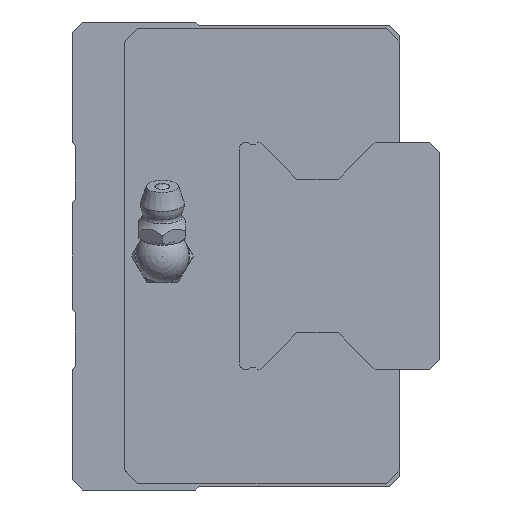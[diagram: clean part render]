
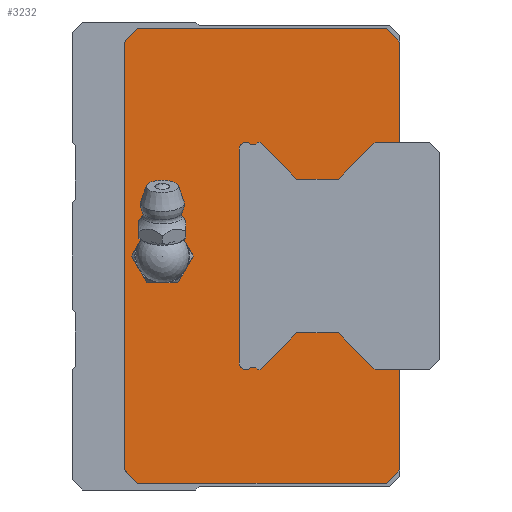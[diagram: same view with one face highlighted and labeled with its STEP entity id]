
A CAD part, left-side view. The second image highlights one B-rep face of the part: STEP entity #3232.
In plain terms, the highlighted planar face has unit normal (-1, 0, 0).
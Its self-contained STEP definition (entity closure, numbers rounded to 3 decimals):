
#183=CIRCLE('',#3509,3.);
#184=CIRCLE('',#3510,1.);
#185=CIRCLE('',#3511,1.);
#563=ORIENTED_EDGE('',*,*,#1301,.T.);
#564=ORIENTED_EDGE('',*,*,#1302,.T.);
#565=ORIENTED_EDGE('',*,*,#1294,.F.);
#566=ORIENTED_EDGE('',*,*,#1264,.F.);
#567=ORIENTED_EDGE('',*,*,#1260,.F.);
#568=ORIENTED_EDGE('',*,*,#1252,.F.);
#569=ORIENTED_EDGE('',*,*,#1285,.F.);
#570=ORIENTED_EDGE('',*,*,#1237,.F.);
#571=ORIENTED_EDGE('',*,*,#1275,.F.);
#572=ORIENTED_EDGE('',*,*,#1272,.F.);
#573=ORIENTED_EDGE('',*,*,#1296,.F.);
#574=ORIENTED_EDGE('',*,*,#1303,.T.);
#575=ORIENTED_EDGE('',*,*,#1304,.T.);
#576=ORIENTED_EDGE('',*,*,#1305,.T.);
#577=ORIENTED_EDGE('',*,*,#1306,.T.);
#578=ORIENTED_EDGE('',*,*,#1307,.T.);
#579=ORIENTED_EDGE('',*,*,#1308,.T.);
#580=ORIENTED_EDGE('',*,*,#1309,.T.);
#581=ORIENTED_EDGE('',*,*,#1310,.T.);
#582=ORIENTED_EDGE('',*,*,#1311,.T.);
#583=ORIENTED_EDGE('',*,*,#1312,.T.);
#584=ORIENTED_EDGE('',*,*,#1313,.T.);
#585=ORIENTED_EDGE('',*,*,#1314,.T.);
#586=ORIENTED_EDGE('',*,*,#1315,.T.);
#587=ORIENTED_EDGE('',*,*,#1316,.T.);
#588=ORIENTED_EDGE('',*,*,#1317,.T.);
#589=ORIENTED_EDGE('',*,*,#1318,.T.);
#1237=EDGE_CURVE('',#1636,#1637,#1951,.T.);
#1252=EDGE_CURVE('',#1651,#1652,#1966,.T.);
#1260=EDGE_CURVE('',#1652,#1658,#1973,.T.);
#1264=EDGE_CURVE('',#1658,#1660,#1977,.T.);
#1272=EDGE_CURVE('',#1667,#1668,#1985,.T.);
#1275=EDGE_CURVE('',#1668,#1636,#1988,.T.);
#1285=EDGE_CURVE('',#1637,#1651,#1996,.T.);
#1294=EDGE_CURVE('',#1660,#1673,#2004,.T.);
#1296=EDGE_CURVE('',#1676,#1667,#2006,.T.);
#1301=EDGE_CURVE('',#1680,#1680,#183,.T.);
#1302=EDGE_CURVE('',#1681,#1673,#2011,.T.);
#1303=EDGE_CURVE('',#1676,#1682,#2012,.T.);
#1304=EDGE_CURVE('',#1682,#1683,#2013,.T.);
#1305=EDGE_CURVE('',#1683,#1684,#2014,.T.);
#1306=EDGE_CURVE('',#1684,#1685,#2015,.T.);
#1307=EDGE_CURVE('',#1685,#1686,#2016,.T.);
#1308=EDGE_CURVE('',#1686,#1687,#2017,.T.);
#1309=EDGE_CURVE('',#1687,#1688,#2018,.T.);
#1310=EDGE_CURVE('',#1688,#1689,#184,.T.);
#1311=EDGE_CURVE('',#1689,#1690,#2019,.T.);
#1312=EDGE_CURVE('',#1690,#1691,#185,.T.);
#1313=EDGE_CURVE('',#1691,#1692,#2020,.T.);
#1314=EDGE_CURVE('',#1692,#1693,#2021,.T.);
#1315=EDGE_CURVE('',#1693,#1694,#2022,.T.);
#1316=EDGE_CURVE('',#1694,#1695,#2023,.T.);
#1317=EDGE_CURVE('',#1695,#1696,#2024,.T.);
#1318=EDGE_CURVE('',#1696,#1681,#2025,.T.);
#1636=VERTEX_POINT('',#4922);
#1637=VERTEX_POINT('',#4924);
#1651=VERTEX_POINT('',#4953);
#1652=VERTEX_POINT('',#4955);
#1658=VERTEX_POINT('',#4971);
#1660=VERTEX_POINT('',#4978);
#1667=VERTEX_POINT('',#4993);
#1668=VERTEX_POINT('',#4995);
#1673=VERTEX_POINT('',#5024);
#1676=VERTEX_POINT('',#5034);
#1680=VERTEX_POINT('',#5045);
#1681=VERTEX_POINT('',#5047);
#1682=VERTEX_POINT('',#5049);
#1683=VERTEX_POINT('',#5051);
#1684=VERTEX_POINT('',#5053);
#1685=VERTEX_POINT('',#5055);
#1686=VERTEX_POINT('',#5057);
#1687=VERTEX_POINT('',#5059);
#1688=VERTEX_POINT('',#5061);
#1689=VERTEX_POINT('',#5063);
#1690=VERTEX_POINT('',#5065);
#1691=VERTEX_POINT('',#5067);
#1692=VERTEX_POINT('',#5069);
#1693=VERTEX_POINT('',#5071);
#1694=VERTEX_POINT('',#5073);
#1695=VERTEX_POINT('',#5075);
#1696=VERTEX_POINT('',#5077);
#1951=LINE('',#4923,#2249);
#1966=LINE('',#4954,#2264);
#1973=LINE('',#4970,#2271);
#1977=LINE('',#4977,#2275);
#1985=LINE('',#4994,#2283);
#1988=LINE('',#4999,#2286);
#1996=LINE('',#5015,#2294);
#2004=LINE('',#5031,#2302);
#2006=LINE('',#5036,#2304);
#2011=LINE('',#5046,#2309);
#2012=LINE('',#5048,#2310);
#2013=LINE('',#5050,#2311);
#2014=LINE('',#5052,#2312);
#2015=LINE('',#5054,#2313);
#2016=LINE('',#5056,#2314);
#2017=LINE('',#5058,#2315);
#2018=LINE('',#5060,#2316);
#2019=LINE('',#5064,#2317);
#2020=LINE('',#5068,#2318);
#2021=LINE('',#5070,#2319);
#2022=LINE('',#5072,#2320);
#2023=LINE('',#5074,#2321);
#2024=LINE('',#5076,#2322);
#2025=LINE('',#5078,#2323);
#2249=VECTOR('',#3988,1000.);
#2264=VECTOR('',#4005,1000.);
#2271=VECTOR('',#4018,1000.);
#2275=VECTOR('',#4024,1000.);
#2283=VECTOR('',#4034,1000.);
#2286=VECTOR('',#4039,1000.);
#2294=VECTOR('',#4059,1000.);
#2302=VECTOR('',#4073,1000.);
#2304=VECTOR('',#4077,1000.);
#2309=VECTOR('',#4086,1000.);
#2310=VECTOR('',#4087,1000.);
#2311=VECTOR('',#4088,1000.);
#2312=VECTOR('',#4089,1000.);
#2313=VECTOR('',#4090,1000.);
#2314=VECTOR('',#4091,1000.);
#2315=VECTOR('',#4092,1000.);
#2316=VECTOR('',#4093,1000.);
#2317=VECTOR('',#4096,1000.);
#2318=VECTOR('',#4099,1000.);
#2319=VECTOR('',#4100,1000.);
#2320=VECTOR('',#4101,1000.);
#2321=VECTOR('',#4102,1000.);
#2322=VECTOR('',#4103,1000.);
#2323=VECTOR('',#4104,1000.);
#2553=EDGE_LOOP('',(#563));
#2554=EDGE_LOOP('',(#564,#565,#566,#567,#568,#569,#570,#571,#572,#573,#574,
#575,#576,#577,#578,#579,#580,#581,#582,#583,#584,#585,#586,#587,#588,#589));
#2844=FACE_BOUND('',#2553,.T.);
#2845=FACE_BOUND('',#2554,.T.);
#3089=PLANE('',#3508);
#3232=ADVANCED_FACE('',(#2844,#2845),#3089,.F.);
#3508=AXIS2_PLACEMENT_3D('',#5043,#4082,#4083);
#3509=AXIS2_PLACEMENT_3D('',#5044,#4084,#4085);
#3510=AXIS2_PLACEMENT_3D('',#5062,#4094,#4095);
#3511=AXIS2_PLACEMENT_3D('',#5066,#4097,#4098);
#3988=DIRECTION('',(0.,0.707,0.707));
#4005=DIRECTION('',(0.,-0.707,0.707));
#4018=DIRECTION('',(0.,-1.,0.));
#4024=DIRECTION('',(0.,-0.707,-0.707));
#4034=DIRECTION('',(0.,0.707,-0.707));
#4039=DIRECTION('',(0.,1.,0.));
#4059=DIRECTION('',(0.,0.,1.));
#4073=DIRECTION('',(0.,0.,-1.));
#4077=DIRECTION('',(0.,0.,-1.));
#4082=DIRECTION('',(1.,0.,0.));
#4083=DIRECTION('',(0.,0.,-1.));
#4084=DIRECTION('',(1.,0.,0.));
#4085=DIRECTION('',(0.,0.,-1.));
#4086=DIRECTION('',(0.,-1.,0.));
#4087=DIRECTION('',(0.,1.,0.));
#4088=DIRECTION('',(0.,0.707,0.707));
#4089=DIRECTION('',(0.,1.,0.));
#4090=DIRECTION('',(0.,0.707,-0.707));
#4091=DIRECTION('',(0.,1.,0.));
#4092=DIRECTION('',(0.,0.707,0.707));
#4093=DIRECTION('',(0.,1.,0.));
#4094=DIRECTION('',(1.,0.,0.));
#4095=DIRECTION('',(0.,0.,-1.));
#4096=DIRECTION('',(0.,0.,1.));
#4097=DIRECTION('',(1.,0.,0.));
#4098=DIRECTION('',(0.,0.,-1.));
#4099=DIRECTION('',(0.,-1.,0.));
#4100=DIRECTION('',(0.,-0.707,0.707));
#4101=DIRECTION('',(0.,-1.,0.));
#4102=DIRECTION('',(0.,-0.707,-0.707));
#4103=DIRECTION('',(0.,-1.,0.));
#4104=DIRECTION('',(0.,-0.707,0.707));
#4922=CARTESIAN_POINT('',(-90.4,39.2,-34.));
#4923=CARTESIAN_POINT('',(-90.4,39.2,-34.));
#4924=CARTESIAN_POINT('',(-90.4,41.2,-32.));
#4953=CARTESIAN_POINT('',(-90.4,41.2,32.));
#4954=CARTESIAN_POINT('',(-90.4,41.2,32.));
#4955=CARTESIAN_POINT('',(-90.4,39.2,34.));
#4970=CARTESIAN_POINT('',(-90.4,39.2,34.));
#4971=CARTESIAN_POINT('',(-90.4,2.,34.));
#4977=CARTESIAN_POINT('',(-90.4,2.,34.));
#4978=CARTESIAN_POINT('',(-90.4,0.,32.));
#4993=CARTESIAN_POINT('',(-90.4,0.,-32.));
#4994=CARTESIAN_POINT('',(-90.4,0.,-32.));
#4995=CARTESIAN_POINT('',(-90.4,2.,-34.));
#4999=CARTESIAN_POINT('',(-90.4,2.,-34.));
#5015=CARTESIAN_POINT('',(-90.4,41.2,-32.));
#5024=CARTESIAN_POINT('',(-90.4,0.,17.));
#5031=CARTESIAN_POINT('',(-90.4,0.,32.));
#5034=CARTESIAN_POINT('',(-90.4,0.,-17.));
#5036=CARTESIAN_POINT('',(-90.4,0.,32.));
#5043=CARTESIAN_POINT('',(-90.4,0.,0.));
#5044=CARTESIAN_POINT('',(-90.4,35.5,0.));
#5045=CARTESIAN_POINT('',(-90.4,35.5,-3.));
#5046=CARTESIAN_POINT('',(-90.4,3.7,17.));
#5047=CARTESIAN_POINT('',(-90.4,3.7,17.));
#5048=CARTESIAN_POINT('',(-90.4,-4.5,-17.));
#5049=CARTESIAN_POINT('',(-90.4,3.7,-17.));
#5050=CARTESIAN_POINT('',(-90.4,3.7,-17.));
#5051=CARTESIAN_POINT('',(-90.4,9.2,-11.5));
#5052=CARTESIAN_POINT('',(-90.4,9.2,-11.5));
#5053=CARTESIAN_POINT('',(-90.4,15.4,-11.5));
#5054=CARTESIAN_POINT('',(-90.4,15.4,-11.5));
#5055=CARTESIAN_POINT('',(-90.4,20.9,-17.));
#5056=CARTESIAN_POINT('',(-90.4,20.9,-17.));
#5057=CARTESIAN_POINT('',(-90.4,21.25,-17.));
#5058=CARTESIAN_POINT('',(-90.4,21.25,-17.));
#5059=CARTESIAN_POINT('',(-90.4,21.5,-16.75));
#5060=CARTESIAN_POINT('',(-90.4,21.5,-16.75));
#5061=CARTESIAN_POINT('',(-90.4,22.339,-16.75));
#5062=CARTESIAN_POINT('',(-90.4,23.,-16.));
#5063=CARTESIAN_POINT('',(-90.4,24.,-16.));
#5064=CARTESIAN_POINT('',(-90.4,24.,-16.));
#5065=CARTESIAN_POINT('',(-90.4,24.,16.));
#5066=CARTESIAN_POINT('',(-90.4,23.,16.));
#5067=CARTESIAN_POINT('',(-90.4,22.339,16.75));
#5068=CARTESIAN_POINT('',(-90.4,22.339,16.75));
#5069=CARTESIAN_POINT('',(-90.4,21.5,16.75));
#5070=CARTESIAN_POINT('',(-90.4,21.5,16.75));
#5071=CARTESIAN_POINT('',(-90.4,21.25,17.));
#5072=CARTESIAN_POINT('',(-90.4,21.25,17.));
#5073=CARTESIAN_POINT('',(-90.4,20.9,17.));
#5074=CARTESIAN_POINT('',(-90.4,20.9,17.));
#5075=CARTESIAN_POINT('',(-90.4,15.4,11.5));
#5076=CARTESIAN_POINT('',(-90.4,15.4,11.5));
#5077=CARTESIAN_POINT('',(-90.4,9.2,11.5));
#5078=CARTESIAN_POINT('',(-90.4,9.2,11.5));
